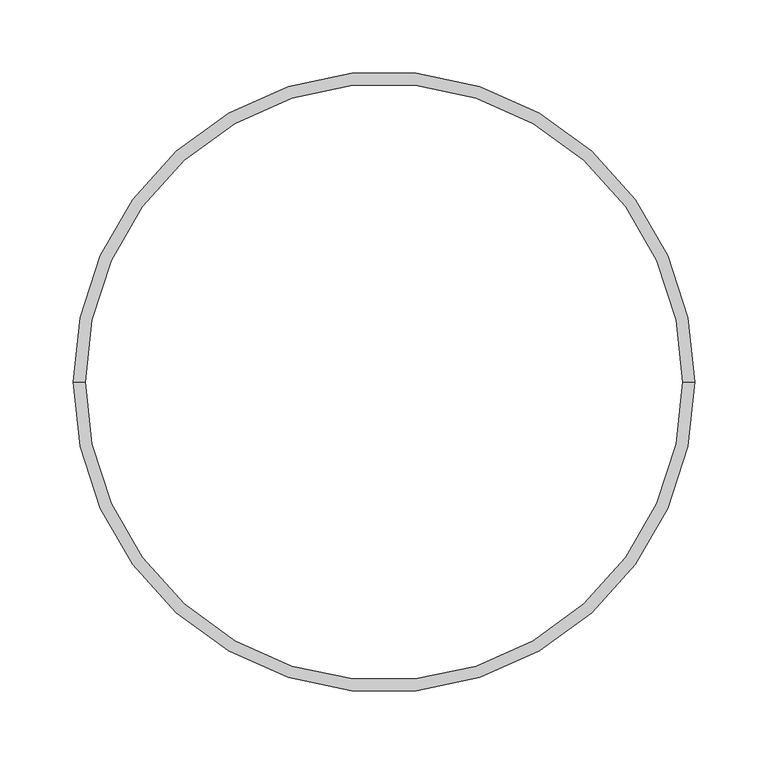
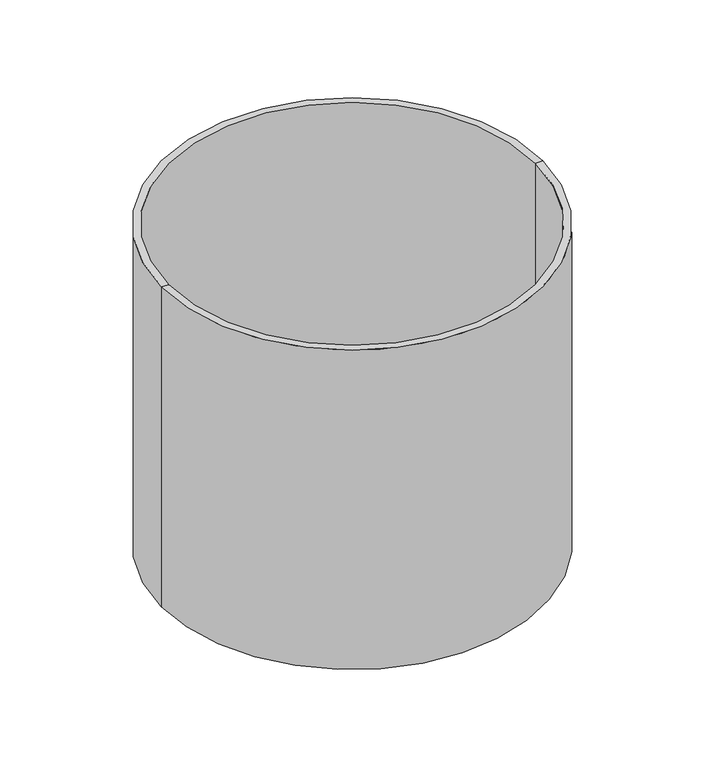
"""IFC4 building model written with IfcOpenShell, lengths in millimetres: pipe fitting geometry, Z_PIF_UN_Aquacell_NG_Telescopic_Pipe_PVC_Wavin_(nested) : DN425 L=375mm RAL8012."""

from ifc_helpers import new_model, si_unit, frame, origin, origin_with_axes, place, context, project, spatial, polyline, circle_curve, source, transform, mapped, element, save
from ifc_brep_helpers import plane_surface, cylinder_surface, revolved_surface, advanced_brep


def pipe_fitting_b3aed72a(model_context):
    return source(origin(), model_context, "Body", "AdvancedBrep", [
        advanced_brep(
        [(-203.5, 0.0, 0.0), (203.5, 0.0, 0.0), (211.5, 0.0, 0.0), (-211.5, 0.0, 0.0), (-203.5, 0.0, -375.0), (203.5, 0.0, -375.0), (-211.5, 0.0, -375.0), (211.5, 0.0, -375.0)],
        [
            (0, 1, circle_curve(frame((0.0, 0.0, 0.0), z_axis=(0.0, 0.0, -1.0), x_axis=(1.0, 0.0, 0.0)), 203.5)),
            (1, 2),
            (2, 3, circle_curve(origin_with_axes(), 211.5)),
            (3, 0),
            (1, 0, circle_curve(frame((0.0, 0.0, 0.0), z_axis=(0.0, 0.0, -1.0), x_axis=(1.0, 0.0, 0.0)), 203.5)),
            (3, 2, circle_curve(origin_with_axes(), 211.5)),
            (4, 5, circle_curve(frame((0.0, 0.0, -375.0), z_axis=(0.0, 0.0, -1.0), x_axis=(1.0, 0.0, 0.0)), 203.5)),
            (5, 1),
            (0, 4),
            (5, 4, circle_curve(frame((0.0, 0.0, -375.0), z_axis=(0.0, 0.0, -1.0), x_axis=(1.0, 0.0, 0.0)), 203.5)),
            (6, 7, circle_curve(frame((0.0, 0.0, -375.0), z_axis=(0.0, 0.0, -1.0), x_axis=(1.0, 0.0, 0.0)), 211.5)),
            (7, 5),
            (4, 6),
            (7, 6, circle_curve(frame((0.0, 0.0, -375.0), z_axis=(0.0, 0.0, -1.0), x_axis=(1.0, 0.0, 0.0)), 211.5)),
            (2, 7),
            (6, 3),
        ],
        [
            plane_surface(origin_with_axes()),
            revolved_surface(polyline([(203.5, 0.0, 0.0), (203.5, 0.0, -375.0)]), (0.0, 0.0, 0.0), (0.0, 0.0, 1.0)),
            plane_surface(frame((0.0, 0.0, -375.0), z_axis=(0.0, 0.0, -1.0), x_axis=(1.0, 0.0, 0.0))),
            cylinder_surface(origin_with_axes(), 211.5),
        ],
        [
            (0, [[1, 2, 3, 4]]),
            (0, [[5, -4, 6, -2]]),
            (1, [[7, 8, -1, 9]]),
            (1, [[10, -9, -5, -8]]),
            (2, [[11, 12, -7, 13]]),
            (2, [[14, -13, -10, -12]]),
            (3, [[-3, 15, -11, 16]]),
            (3, [[-6, -16, -14, -15]]),
        ],
    ),
    ])


if __name__ == "__main__":
    model = new_model("IFC4")
    model_context = context("Model", 3, world=origin())
    ifc_project = project(units=[si_unit("LENGTHUNIT", "METRE", prefix="MILLI")], contexts=[model_context])
    site = spatial("IfcSite", under=ifc_project)
    building = spatial("IfcBuilding", under=site)
    placement = place(None, origin())
    pipe_fitting_shape = pipe_fitting_b3aed72a(model_context)
    element("IfcPipeFitting", 1, ObjectType="Z_PIF_UN_Aquacell_NG_Telescopic_Pipe_PVC_Wavin_(nested) : DN425 L=375mm RAL8012", at=placement, inside=building, context=model_context, shape_type="MappedRepresentation", body=[
        mapped(pipe_fitting_shape, transform((0.0, 0.0, 0.0), x_axis=(1.0, 0.0, 0.0), y_axis=(0.0, 1.0, 0.0), z_axis=(0.0, 0.0, 1.0))),
    ])
    save(model, "model.ifc")
